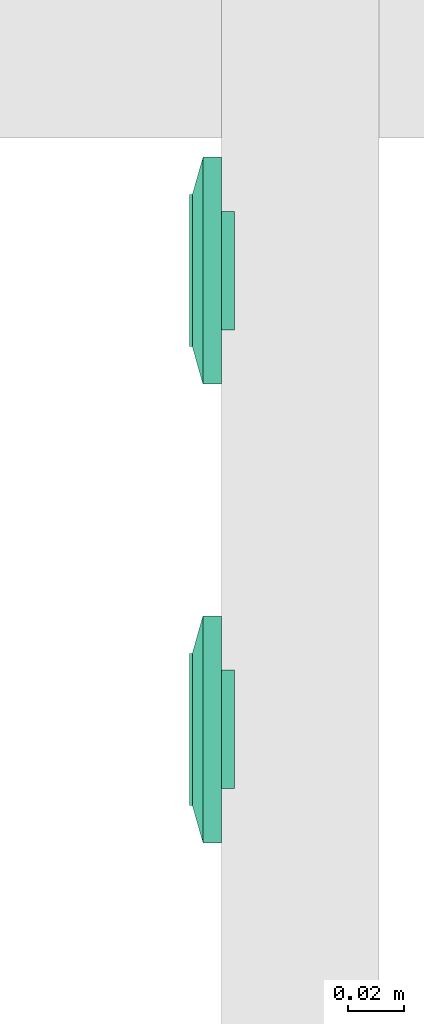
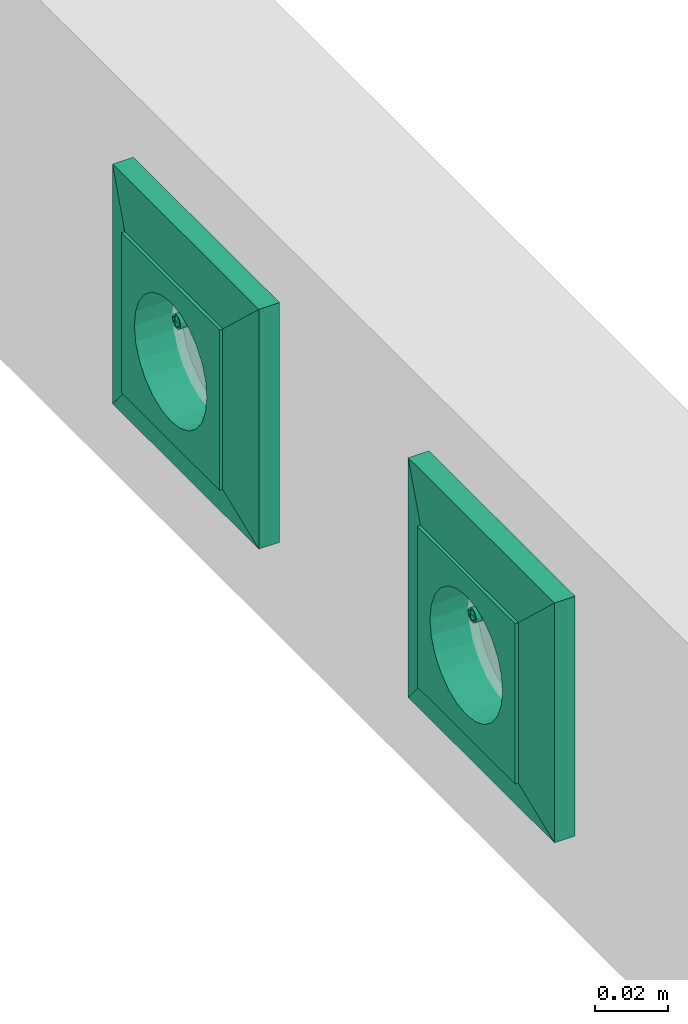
# One storey, part 75 of 166: 2 flow terminals.
"""IFC2X3 building model written with IfcOpenShell, lengths in metres."""

from ifc_helpers import new_model, entity, si_unit, converted_unit, derived_unit, direction, frame, origin, place, context, subcontext, project, spatial, face_set, surface_model, source, transform, mapped, type_object, type_shapes, element, save


model = new_model("IFC2X3")

# Units and contexts
model_context = context("Model", 3, precision=1e-05, world=origin(), true_north=direction((6.12303176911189e-17, 1.0)))
body_context = subcontext(model_context, "Body", "Model", "MODEL_VIEW")
ifc_project = project(units=[si_unit("LENGTHUNIT", "METRE"), si_unit("AREAUNIT", "SQUARE_METRE"), si_unit("VOLUMEUNIT", "CUBIC_METRE"), converted_unit("PLANEANGLEUNIT", "DEGREE", entity("IfcRatioMeasure", 0.0174532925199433), si_unit("PLANEANGLEUNIT", "RADIAN"), dimensions=[0, 0, 0, 0, 0, 0, 0]), si_unit("MASSUNIT", "GRAM", prefix="KILO"), derived_unit("MASSDENSITYUNIT", [(si_unit("MASSUNIT", "GRAM", prefix="KILO"), 1), (si_unit("LENGTHUNIT", "METRE"), -3)]), si_unit("TIMEUNIT", "SECOND"), si_unit("FREQUENCYUNIT", "HERTZ"), si_unit("THERMODYNAMICTEMPERATUREUNIT", "DEGREE_CELSIUS"), derived_unit("THERMALTRANSMITTANCEUNIT", [(si_unit("MASSUNIT", "GRAM", prefix="KILO"), 1), (si_unit("THERMODYNAMICTEMPERATUREUNIT", "KELVIN"), -1), (si_unit("TIMEUNIT", "SECOND"), -3)]), derived_unit("VOLUMETRICFLOWRATEUNIT", [(si_unit("LENGTHUNIT", "METRE"), 3), (si_unit("TIMEUNIT", "SECOND"), -1)]), si_unit("ELECTRICCURRENTUNIT", "AMPERE"), si_unit("ELECTRICVOLTAGEUNIT", "VOLT"), si_unit("POWERUNIT", "WATT"), si_unit("FORCEUNIT", "NEWTON"), si_unit("ILLUMINANCEUNIT", "LUX"), si_unit("LUMINOUSFLUXUNIT", "LUMEN"), si_unit("LUMINOUSINTENSITYUNIT", "CANDELA"), derived_unit("USERDEFINED", [(si_unit("MASSUNIT", "GRAM", prefix="KILO"), -1), (si_unit("LENGTHUNIT", "METRE"), -2), (si_unit("TIMEUNIT", "SECOND"), 3), (si_unit("LUMINOUSFLUXUNIT", "LUMEN"), 1)]), derived_unit("LINEARVELOCITYUNIT", [(si_unit("LENGTHUNIT", "METRE"), 1), (si_unit("TIMEUNIT", "SECOND"), -1)]), si_unit("PRESSUREUNIT", "PASCAL"), derived_unit("USERDEFINED", [(si_unit("LENGTHUNIT", "METRE"), -2), (si_unit("MASSUNIT", "GRAM", prefix="KILO"), 1), (si_unit("TIMEUNIT", "SECOND"), -2)])], contexts=[model_context])

# Site, building, storey
site_placement = place(None, origin())
site = spatial("IfcSite", under=ifc_project, at=site_placement, Name="Default", CompositionType="ELEMENT")
building_placement = place(site_placement, origin())
building = spatial("IfcBuilding", under=site, at=building_placement, CompositionType="ELEMENT")
storey_placement = place(building_placement, frame((0.0, 0.0, 4.27)))
storey = spatial("IfcBuildingStorey", under=building, at=storey_placement, Name="01", CompositionType="ELEMENT", Elevation=4.27)

# Flow terminals
light_fixture_type = type_object("IfcLightFixtureType", Name="IP20 ONDULEE", PredefinedType="NOTDEFINED")
shared_shape = source(origin(), body_context, "Body", "SurfaceModel", [
    surface_model("IfcFaceBasedSurfaceModel", [(-0.00225000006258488, 0.0127499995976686, 0.00949633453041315), (0.0, 0.0104999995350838, 0.00949633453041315), (0.0, 0.0115376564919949, 0.0101656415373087), (0.0, 0.0139623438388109, 0.0101656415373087), (0.0, 0.0144589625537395, 0.00984531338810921), (0.0, 0.0121178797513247, 0.0102778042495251), (0.0, 0.0133821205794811, 0.0102778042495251), (0.0, 0.0127499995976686, 0.010399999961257), (0.0, 0.0149999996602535, 0.00949633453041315), (0.00225000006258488, 0.0127499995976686, 0.00949633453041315), (0.0, 0.0110410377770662, 0.00984531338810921), (0.0, 0.0127499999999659, 0.00949633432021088), (0.00225000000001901, 0.0127499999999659, 0.00949633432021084), (0.00217333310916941, 0.0121676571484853, 0.00949633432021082), (0.00194855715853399, 0.0116249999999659, 0.00949633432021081), (0.00159099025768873, 0.0111590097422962, 0.00949633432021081), (0.001125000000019, 0.010801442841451, 0.00949633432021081), (0.00058234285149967, 0.0105766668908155, 0.00949633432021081), (0.0, 0.0104999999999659, 0.00949633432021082), (-0.000582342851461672, 0.0105766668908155, 0.00949633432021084), (-0.001124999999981, 0.010801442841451, 0.00949633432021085), (-0.00159099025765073, 0.0111590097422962, 0.00949633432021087), (-0.00194855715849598, 0.011624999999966, 0.00949633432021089), (-0.0021733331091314, 0.0121676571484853, 0.00949633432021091), (-0.00224999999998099, 0.012749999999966, 0.00949633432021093), (-0.00217333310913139, 0.0133323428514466, 0.00949633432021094), (-0.00194855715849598, 0.013874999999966, 0.00949633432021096), (-0.00159099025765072, 0.0143409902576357, 0.00949633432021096), (-0.00112499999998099, 0.0146985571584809, 0.00949633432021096), (-0.00058234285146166, 0.0149233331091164, 0.00949633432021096), (0.0, 0.0149999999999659, 0.00949633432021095), (0.000582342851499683, 0.0149233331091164, 0.00949633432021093), (0.00112500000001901, 0.0146985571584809, 0.00949633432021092), (0.00159099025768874, 0.0143409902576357, 0.00949633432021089), (0.001948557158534, 0.0138749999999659, 0.00949633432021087), (0.00217333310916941, 0.0133323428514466, 0.00949633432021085), (0.00225000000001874, 0.0127499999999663, -0.00360000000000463), (0.00217333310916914, 0.0121676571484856, -0.00360000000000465), (0.00194855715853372, 0.0116249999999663, -0.00360000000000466), (0.00159099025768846, 0.0111590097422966, -0.00360000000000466), (0.00112500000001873, 0.0108014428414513, -0.00360000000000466), (0.000582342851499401, 0.0105766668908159, -0.00360000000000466), (0.0, 0.0104999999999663, -0.00360000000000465), (-0.000582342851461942, 0.0105766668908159, -0.00360000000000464), (-0.00112499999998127, 0.0108014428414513, -0.00360000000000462), (-0.001590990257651, 0.0111590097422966, -0.0036000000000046), (-0.00194855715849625, 0.0116249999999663, -0.00360000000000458), (-0.00217333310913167, 0.0121676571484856, -0.00360000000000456), (-0.00224999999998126, 0.0127499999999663, -0.00360000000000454), (-0.00217333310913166, 0.013332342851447, -0.00360000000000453), (-0.00194855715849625, 0.0138749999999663, -0.00360000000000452), (-0.00159099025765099, 0.014340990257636, -0.00360000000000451), (-0.00112499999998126, 0.0146985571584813, -0.00360000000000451), (-0.000582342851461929, 0.0149233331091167, -0.00360000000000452), (0.0, 0.0149999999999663, -0.00360000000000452), (0.000582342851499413, 0.0149233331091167, -0.00360000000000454), (0.00112500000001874, 0.0146985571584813, -0.00360000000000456), (0.00159099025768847, 0.014340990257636, -0.00360000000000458), (0.00194855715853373, 0.0138749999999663, -0.0036000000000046), (0.00217333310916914, 0.013332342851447, -0.00360000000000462), (0.0270000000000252, 0.026999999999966, 0.0113999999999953), (-0.0269999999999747, 0.026999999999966, 0.0113999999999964), (-0.0269999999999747, -0.0270000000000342, 0.0113999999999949), (0.0270000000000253, -0.0270000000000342, 0.0113999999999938), (-0.0199999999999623, 0.0, 0.0113999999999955), (-0.0193185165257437, -0.00517638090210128, 0.0113999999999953), (-0.0173205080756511, -0.0100000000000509, 0.0113999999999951), (-0.0141421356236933, -0.0141421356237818, 0.011399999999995), (-0.00999999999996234, -0.0173205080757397, 0.0113999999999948), (-0.00517638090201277, -0.0193185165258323, 0.0113999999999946), (0.0, -0.0200000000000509, 0.0113999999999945), (0.00517638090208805, -0.0193185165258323, 0.0113999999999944), (0.0100000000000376, -0.0173205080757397, 0.0113999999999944), (0.0141421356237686, -0.0141421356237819, 0.0113999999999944), (0.0173205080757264, -0.010000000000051, 0.0113999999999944), (0.0193185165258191, -0.00517638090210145, 0.0113999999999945), (0.0200000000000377, 0.0, 0.0113999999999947), (0.0193185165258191, 0.00517638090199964, 0.0113999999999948), (0.0173205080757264, 0.0099999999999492, 0.011399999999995), (0.0141421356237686, 0.0141421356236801, 0.0113999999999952), (0.0100000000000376, 0.0173205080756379, 0.0113999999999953), (0.00517638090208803, 0.0193185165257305, 0.0113999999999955), (0.0, 0.0199999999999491, 0.0113999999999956), (-0.00517638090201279, 0.0193185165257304, 0.0113999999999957), (-0.00999999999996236, 0.0173205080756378, 0.0113999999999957), (-0.0141421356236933, 0.01414213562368, 0.0113999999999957), (-0.0173205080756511, 0.00999999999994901, 0.0113999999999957), (-0.0193185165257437, 0.00517638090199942, 0.0113999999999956), (0.0270000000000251, 0.0269999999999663, 0.00199999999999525), (0.0270000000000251, -0.0270000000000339, 0.00199999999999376), (-0.0269999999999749, -0.0270000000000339, 0.00199999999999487), (-0.0269999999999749, 0.0269999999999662, 0.00199999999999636), (0.0210000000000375, 0.0, 0.00199999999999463), (0.0202844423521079, -0.00543519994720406, 0.00199999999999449), (0.0181865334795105, -0.0105000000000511, 0.0019999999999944), (0.0148492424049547, -0.0148492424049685, 0.00199999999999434), (0.0105000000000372, -0.0181865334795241, 0.00199999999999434), (0.0054351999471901, -0.0202844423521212, 0.00199999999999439), (0.0, -0.0210000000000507, 0.00199999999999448), (-0.00543519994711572, -0.020284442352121, 0.00199999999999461), (-0.0104999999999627, -0.0181865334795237, 0.00199999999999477), (-0.0148492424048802, -0.014849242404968, 0.00199999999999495), (-0.0181865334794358, -0.0105000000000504, 0.00199999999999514), (-0.020284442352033, -0.00543519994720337, 0.00199999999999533), (-0.0209999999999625, 0.0, 0.00199999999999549), (-0.0202844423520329, 0.0054351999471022, 0.00199999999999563), (-0.0181865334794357, 0.0104999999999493, 0.00199999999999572), (-0.01484924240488, 0.0148492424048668, 0.00199999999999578), (-0.0104999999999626, 0.0181865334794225, 0.00199999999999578), (-0.00543519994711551, 0.0202844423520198, 0.00199999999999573), (0.0, 0.0209999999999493, 0.00199999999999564), (0.00543519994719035, 0.0202844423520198, 0.00199999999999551), (0.0105000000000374, 0.0181865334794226, 0.00199999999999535), (0.0148492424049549, 0.0148492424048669, 0.00199999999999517), (0.0181865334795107, 0.0104999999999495, 0.00199999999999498), (0.0202844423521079, 0.00543519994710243, 0.00199999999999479), (0.0200000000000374, 0.0, -0.00360000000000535), (0.0193185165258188, -0.00517638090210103, -0.00360000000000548), (0.0173205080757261, -0.0100000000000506, -0.00360000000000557), (0.0141421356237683, -0.0141421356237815, -0.00360000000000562), (0.0100000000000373, -0.0173205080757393, -0.00360000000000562), (0.00517638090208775, -0.0193185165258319, -0.00360000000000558), (0.0, -0.0200000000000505, -0.00360000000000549), (-0.00517638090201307, -0.0193185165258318, -0.00360000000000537), (-0.00999999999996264, -0.0173205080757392, -0.00360000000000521), (-0.0141421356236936, -0.0141421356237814, -0.00360000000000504), (-0.0173205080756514, -0.0100000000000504, -0.00360000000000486), (-0.019318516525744, -0.00517638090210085, -0.00360000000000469), (-0.0199999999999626, 0.0, -0.00360000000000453), (-0.0193185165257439, 0.00517638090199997, -0.0036000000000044), (-0.0173205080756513, 0.00999999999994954, -0.00360000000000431), (-0.0141421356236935, 0.0141421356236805, -0.00360000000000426), (-0.00999999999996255, 0.0173205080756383, -0.00360000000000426), (-0.00517638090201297, 0.0193185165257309, -0.0036000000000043), (0.0, 0.0199999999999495, -0.00360000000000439), (0.00517638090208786, 0.0193185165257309, -0.00360000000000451), (0.0100000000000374, 0.0173205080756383, -0.00360000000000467), (0.0141421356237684, 0.0141421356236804, -0.00360000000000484), (0.0173205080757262, 0.0099999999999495, -0.00360000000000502), (0.0193185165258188, 0.00517638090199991, -0.00360000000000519), (-0.0123499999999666, 0.0, -0.00360000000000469), (-0.0122562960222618, -0.000711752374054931, -0.00360000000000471), (-0.0119815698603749, -0.00137500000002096, -0.00360000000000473), (-0.0115445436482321, -0.00194454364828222, -0.00360000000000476), (-0.0109749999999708, -0.00238156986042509, -0.00360000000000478), (-0.0103117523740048, -0.00265629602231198, -0.0036000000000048), (-0.00959999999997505, -0.00275000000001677, -0.00360000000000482), (-0.0088882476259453, -0.00265629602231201, -0.00360000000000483), (-0.00822499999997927, -0.00238156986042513, -0.00360000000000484), (-0.00765545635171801, -0.00194454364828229, -0.00360000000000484), (-0.00721843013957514, -0.00137500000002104, -0.00360000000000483), (-0.00694370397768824, -0.000711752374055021, -0.00360000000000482), (-0.00684999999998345, 0.0, -0.0036000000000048), (-0.00694370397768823, 0.000711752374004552, -0.00360000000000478), (-0.00721843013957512, 0.00137499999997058, -0.00360000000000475), (-0.00765545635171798, 0.00194454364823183, -0.00360000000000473), (-0.00822499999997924, 0.00238156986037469, -0.0036000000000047), (-0.00888824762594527, 0.00265629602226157, -0.00360000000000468), (-0.00959999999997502, 0.00274999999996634, -0.00360000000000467), (-0.0103117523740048, 0.00265629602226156, -0.00360000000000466), (-0.0109749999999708, 0.00238156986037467, -0.00360000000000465), (-0.011544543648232, 0.00194454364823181, -0.00360000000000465), (-0.0119815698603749, 0.00137499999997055, -0.00360000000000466), (-0.0122562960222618, 0.000711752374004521, -0.00360000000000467), (0.00685000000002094, 0.0, -0.00360000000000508), (0.0069437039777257, -0.00071175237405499, -0.0036000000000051), (0.00721843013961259, -0.00137500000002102, -0.00360000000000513), (0.00765545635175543, -0.00194454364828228, -0.00360000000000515), (0.00822500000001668, -0.00238156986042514, -0.00360000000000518), (0.00888824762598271, -0.00265629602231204, -0.0036000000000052), (0.00960000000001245, -0.00275000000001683, -0.00360000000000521), (0.0103117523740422, -0.00265629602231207, -0.00360000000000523), (0.0109750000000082, -0.00238156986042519, -0.00360000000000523), (0.0115445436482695, -0.00194454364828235, -0.00360000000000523), (0.0119815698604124, -0.0013750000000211, -0.00360000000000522), (0.0122562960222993, -0.00071175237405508, -0.00360000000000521), (0.012350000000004, 0.0, -0.00360000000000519), (0.0122562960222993, 0.000711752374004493, -0.00360000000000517), (0.0119815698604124, 0.00137499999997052, -0.00360000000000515), (0.0115445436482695, 0.00194454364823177, -0.00360000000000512), (0.0109750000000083, 0.00238156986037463, -0.0036000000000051), (0.0103117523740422, 0.00265629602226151, -0.00360000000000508), (0.00960000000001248, 0.00274999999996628, -0.00360000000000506), (0.00888824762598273, 0.0026562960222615, -0.00360000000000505), (0.0082250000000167, 0.00238156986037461, -0.00360000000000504), (0.00765545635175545, 0.00194454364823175, -0.00360000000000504), (0.0072184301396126, 0.00137499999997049, -0.00360000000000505), (0.00694370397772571, 0.000711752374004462, -0.00360000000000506), (0.0210000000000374, 0.0, -0.00460000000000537), (0.0202844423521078, -0.00543519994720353, -0.00460000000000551), (0.0181865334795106, -0.0105000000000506, -0.0046000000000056), (0.0148492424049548, -0.0148492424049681, -0.00460000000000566), (0.0105000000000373, -0.0181865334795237, -0.00460000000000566), (0.00543519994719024, -0.0202844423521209, -0.00460000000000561), (0.0, -0.0210000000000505, -0.00460000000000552), (-0.00543519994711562, -0.0202844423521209, -0.00460000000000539), (-0.0104999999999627, -0.0181865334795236, -0.00460000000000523), (-0.0148492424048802, -0.0148492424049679, -0.00460000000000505), (-0.0181865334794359, -0.0105000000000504, -0.00460000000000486), (-0.0202844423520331, -0.00543519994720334, -0.00460000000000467), (-0.0209999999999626, 0.0, -0.00460000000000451), (-0.020284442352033, 0.00543519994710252, -0.00460000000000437), (-0.0181865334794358, 0.0104999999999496, -0.00460000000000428), (-0.0148492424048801, 0.0148492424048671, -0.00460000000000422), (-0.0104999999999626, 0.0181865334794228, -0.00460000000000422), (-0.00543519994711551, 0.02028444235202, -0.00460000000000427), (0.0, 0.0209999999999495, -0.00460000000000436), (0.00543519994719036, 0.02028444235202, -0.00460000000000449), (0.0105000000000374, 0.0181865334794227, -0.00460000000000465), (0.0148492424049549, 0.014849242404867, -0.00460000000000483), (0.0181865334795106, 0.0104999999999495, -0.00460000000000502), (0.0202844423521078, 0.00543519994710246, -0.00460000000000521), (-0.00684999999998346, 0.0, -0.0046000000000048), (-0.00694370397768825, 0.000711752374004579, -0.00460000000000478), (-0.00721843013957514, 0.00137499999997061, -0.00460000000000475), (-0.007655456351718, 0.00194454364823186, -0.00460000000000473), (-0.00822499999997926, 0.00238156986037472, -0.0046000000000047), (-0.00888824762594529, 0.0026562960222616, -0.00460000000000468), (-0.00959999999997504, 0.00274999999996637, -0.00460000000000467), (-0.0103117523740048, 0.00265629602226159, -0.00460000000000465), (-0.0109749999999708, 0.0023815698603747, -0.00460000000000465), (-0.0115445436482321, 0.00194454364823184, -0.00460000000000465), (-0.0119815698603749, 0.00137499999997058, -0.00460000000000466), (-0.0122562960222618, 0.000711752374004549, -0.00460000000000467), (-0.0123499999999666, 0.0, -0.00460000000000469), (-0.0122562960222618, -0.000711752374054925, -0.00460000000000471), (-0.0119815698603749, -0.00137500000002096, -0.00460000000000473), (-0.0115445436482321, -0.00194454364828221, -0.00460000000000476), (-0.0109749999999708, -0.00238156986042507, -0.00460000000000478), (-0.0103117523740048, -0.00265629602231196, -0.0046000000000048), (-0.00959999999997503, -0.00275000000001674, -0.00460000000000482), (-0.00888824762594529, -0.00265629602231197, -0.00460000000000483), (-0.00822499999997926, -0.00238156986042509, -0.00460000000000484), (-0.007655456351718, -0.00194454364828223, -0.00460000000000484), (-0.00721843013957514, -0.00137500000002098, -0.00460000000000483), (-0.00694370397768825, -0.000711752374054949, -0.00460000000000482), (0.012350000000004, 0.0, -0.00460000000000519), (0.0122562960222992, 0.000711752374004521, -0.00460000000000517), (0.0119815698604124, 0.00137499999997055, -0.00460000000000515), (0.0115445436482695, 0.0019445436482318, -0.00460000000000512), (0.0109750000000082, 0.00238156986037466, -0.0046000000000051), (0.0103117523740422, 0.00265629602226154, -0.00460000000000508), (0.00960000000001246, 0.00274999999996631, -0.00460000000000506), (0.00888824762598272, 0.00265629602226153, -0.00460000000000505), (0.00822500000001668, 0.00238156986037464, -0.00460000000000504), (0.00765545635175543, 0.00194454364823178, -0.00460000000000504), (0.00721843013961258, 0.00137499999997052, -0.00460000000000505), (0.00694370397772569, 0.00071175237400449, -0.00460000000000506), (0.00685000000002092, 0.0, -0.00460000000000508), (0.00694370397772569, -0.000711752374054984, -0.0046000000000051), (0.00721843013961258, -0.00137500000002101, -0.00460000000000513), (0.00765545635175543, -0.00194454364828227, -0.00460000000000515), (0.00822500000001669, -0.00238156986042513, -0.00460000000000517), (0.00888824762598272, -0.00265629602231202, -0.0046000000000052), (0.00960000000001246, -0.0027500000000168, -0.00460000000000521), (0.0103117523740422, -0.00265629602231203, -0.00460000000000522), (0.0109750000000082, -0.00238156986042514, -0.00460000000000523), (0.0115445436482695, -0.00194454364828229, -0.00460000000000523), (0.0119815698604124, -0.00137500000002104, -0.00460000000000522), (0.0122562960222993, -0.000711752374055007, -0.00460000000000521), (0.040350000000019, 0.0403499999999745, 0.00659999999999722), (0.040350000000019, -0.0403500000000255, 0.00659999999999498), (-0.0403499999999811, -0.0403500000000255, 0.00659999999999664), (-0.0403499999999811, 0.0403499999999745, 0.00659999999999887), (0.027000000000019, 0.0269999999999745, 0.00659999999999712), (-0.0269999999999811, 0.0269999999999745, 0.00659999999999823), (-0.026999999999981, -0.0270000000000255, 0.00659999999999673), (0.027000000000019, -0.0270000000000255, 0.00659999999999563), (0.027000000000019, 0.0269999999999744, 0.0103999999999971), (-0.026999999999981, 0.0269999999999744, 0.0103999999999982), (-0.026999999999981, -0.0270000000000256, 0.0103999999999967), (0.027000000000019, -0.0270000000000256, 0.0103999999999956), (0.040350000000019, 0.0403499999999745, 0.00659999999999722), (0.040350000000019, -0.0403500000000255, 0.00659999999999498), (-0.0403499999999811, -0.0403500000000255, 0.00659999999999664), (-0.0403499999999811, 0.0403499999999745, 0.00659999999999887), (-0.0269999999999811, 0.0269999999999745, 0.00659999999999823), (-0.0269999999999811, -0.0270000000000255, 0.00659999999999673), (0.0270000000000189, -0.0270000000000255, 0.00659999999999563), (0.0270000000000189, 0.0269999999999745, 0.00659999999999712), (0.0403500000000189, 0.0403499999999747, 0.0), (0.0403500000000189, -0.0403500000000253, 0.0), (-0.0403499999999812, -0.0403500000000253, 0.0), (-0.0403499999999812, 0.0403499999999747, 0.0), (0.0270000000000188, 0.0269999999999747, 0.0), (-0.0269999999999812, 0.0269999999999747, 0.0), (-0.0269999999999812, -0.0270000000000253, 0.0), (0.0270000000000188, -0.0270000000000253, 0.0)], [face_set([[[0, 1, 2]], [[3, 4, 2, 5]], [[6, 3, 5, 7]], [[2, 4, 0]], [[4, 8, 0]], [[3, 9, 8]], [[1, 9, 10]], [[2, 3, 6, 7]], [[3, 10, 9]], [[2, 10, 3]], [[11, 1, 0, 8]], [[11, 8, 9, 1]]]), face_set([[[12, 13, 14, 15, 16, 17, 18, 19, 20, 21, 22, 23, 24, 25, 26, 27, 28, 29, 30, 31, 32, 33, 34, 35]], [[36, 37, 38, 39, 40, 41, 42, 43, 44, 45, 46, 47, 48, 49, 50, 51, 52, 53, 54, 55, 56, 57, 58, 59]], [[48, 47, 23, 24]], [[47, 46, 22, 23]], [[45, 44, 20, 21]], [[46, 45, 21, 22]], [[44, 43, 19, 20]], [[18, 19, 43, 42]], [[42, 41, 17, 18]], [[41, 40, 16, 17]], [[39, 38, 14, 15]], [[40, 39, 15, 16]], [[38, 37, 13, 14]], [[12, 13, 37, 36]], [[36, 59, 35, 12]], [[59, 58, 34, 35]], [[57, 56, 32, 33]], [[58, 57, 33, 34]], [[56, 55, 31, 32]], [[30, 31, 55, 54]], [[54, 53, 29, 30]], [[53, 52, 28, 29]], [[51, 50, 26, 27]], [[52, 51, 27, 28]], [[50, 49, 25, 26]], [[24, 25, 49, 48]]]), face_set([[[60, 61, 62, 63], [64, 65, 66, 67, 68, 69, 70, 71, 72, 73, 74, 75, 76, 77, 78, 79, 80, 81, 82, 83, 84, 85, 86, 87]], [[88, 89, 90, 91], [92, 93, 94, 95, 96, 97, 98, 99, 100, 101, 102, 103, 104, 105, 106, 107, 108, 109, 110, 111, 112, 113, 114, 115]], [[61, 60, 88, 91]], [[62, 61, 91, 90]], [[63, 62, 90, 89]], [[60, 63, 89, 88]], [[116, 117, 118, 119, 120, 121, 122, 123, 124, 125, 126, 127, 128, 129, 130, 131, 132, 133, 134, 135, 136, 137, 138, 139], [140, 141, 142, 143, 144, 145, 146, 147, 148, 149, 150, 151, 152, 153, 154, 155, 156, 157, 158, 159, 160, 161, 162, 163], [164, 165, 166, 167, 168, 169, 170, 171, 172, 173, 174, 175, 176, 177, 178, 179, 180, 181, 182, 183, 184, 185, 186, 187]], [[64, 128, 127, 65]], [[65, 127, 126, 66]], [[67, 125, 124, 68]], [[66, 126, 125, 67]], [[68, 124, 123, 69]], [[122, 70, 69, 123]], [[70, 122, 121, 71]], [[71, 121, 120, 72]], [[73, 119, 118, 74]], [[72, 120, 119, 73]], [[74, 118, 117, 75]], [[116, 76, 75, 117]], [[76, 116, 139, 77]], [[77, 139, 138, 78]], [[79, 137, 136, 80]], [[78, 138, 137, 79]], [[80, 136, 135, 81]], [[134, 82, 81, 135]], [[82, 134, 133, 83]], [[83, 133, 132, 84]], [[84, 132, 131, 85]], [[85, 131, 130, 86]], [[130, 129, 87, 86]], [[64, 87, 129, 128]], [[188, 189, 190, 191, 192, 193, 194, 195, 196, 197, 198, 199, 200, 201, 202, 203, 204, 205, 206, 207, 208, 209, 210, 211], [212, 213, 214, 215, 216, 217, 218, 219, 220, 221, 222, 223, 224, 225, 226, 227, 228, 229, 230, 231, 232, 233, 234, 235], [236, 237, 238, 239, 240, 241, 242, 243, 244, 245, 246, 247, 248, 249, 250, 251, 252, 253, 254, 255, 256, 257, 258, 259]], [[200, 199, 103, 104]], [[199, 198, 102, 103]], [[197, 196, 100, 101]], [[198, 197, 101, 102]], [[196, 195, 99, 100]], [[98, 99, 195, 194]], [[194, 193, 97, 98]], [[193, 192, 96, 97]], [[191, 190, 94, 95]], [[192, 191, 95, 96]], [[190, 189, 93, 94]], [[92, 93, 189, 188]], [[188, 211, 115, 92]], [[211, 210, 114, 115]], [[209, 208, 112, 113]], [[210, 209, 113, 114]], [[208, 207, 111, 112]], [[110, 111, 207, 206]], [[206, 205, 109, 110]], [[205, 204, 108, 109]], [[203, 202, 106, 107]], [[204, 203, 107, 108]], [[202, 201, 105, 106]], [[104, 105, 201, 200]], [[141, 225, 226, 142]], [[140, 224, 225, 141]], [[144, 228, 229, 145]], [[143, 227, 228, 144]], [[142, 226, 227, 143]], [[230, 146, 145, 229]], [[149, 233, 232, 148]], [[148, 232, 231, 147]], [[152, 212, 235, 151]], [[151, 235, 234, 150]], [[150, 234, 233, 149]], [[146, 230, 231, 147]], [[154, 214, 213, 153]], [[153, 213, 212, 152]], [[157, 217, 216, 156]], [[156, 216, 215, 155]], [[155, 215, 214, 154]], [[218, 158, 157, 217]], [[160, 220, 221, 161]], [[159, 219, 220, 160]], [[163, 223, 224, 140]], [[162, 222, 223, 163]], [[161, 221, 222, 162]], [[158, 218, 219, 159]], [[166, 250, 249, 165]], [[165, 249, 248, 164]], [[169, 253, 252, 168]], [[168, 252, 251, 167]], [[167, 251, 250, 166]], [[254, 170, 169, 253]], [[172, 256, 257, 173]], [[171, 255, 256, 172]], [[175, 259, 236, 176]], [[174, 258, 259, 175]], [[173, 257, 258, 174]], [[170, 254, 255, 171]], [[177, 237, 238, 178]], [[176, 236, 237, 177]], [[180, 240, 241, 181]], [[179, 239, 240, 180]], [[178, 238, 239, 179]], [[242, 182, 181, 241]], [[185, 245, 244, 184]], [[184, 244, 243, 183]], [[164, 248, 247, 187]], [[187, 247, 246, 186]], [[186, 246, 245, 185]], [[182, 242, 243, 183]]]), face_set([[[260, 261, 262, 263], [264, 265, 266, 267]], [[260, 268, 269, 263]], [[263, 269, 270, 262]], [[262, 270, 271, 261]], [[261, 271, 268, 260]], [[264, 265, 269, 268]], [[265, 266, 270, 269]], [[266, 267, 271, 270]], [[268, 271, 267, 264]]]), face_set([[[272, 273, 274, 275], [276, 277, 278, 279]], [[280, 281, 282, 283], [284, 285, 286, 287]], [[275, 272, 280, 283]], [[274, 275, 283, 282]], [[273, 274, 282, 281]], [[272, 273, 281, 280]], [[284, 285, 276, 279]], [[285, 286, 277, 276]], [[286, 287, 278, 277]], [[279, 278, 287, 284]]])]),
])
type_shapes(light_fixture_type, [shared_shape])
for number, where, z_axis, x_axis in (
    (1, (40.833743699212, -189.593532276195, 4.70800000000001), (-1.0, 0.0, 0.0), (0.0, -1.0, 0.0)),
    (2, (40.833743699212, -189.756532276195, 4.70800000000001), (-1.0, 0.0, 0.0), (0.0, -1.0, 0.0)),
):
    element("IfcFlowTerminal", number, at=place(building_placement, frame(where, z_axis=z_axis, x_axis=x_axis)), inside=storey, type_object=light_fixture_type, Name="INT Prise de courant:IP20 ONDULEE", ObjectType="INT Prise de courant:IP20 ONDULEE", context=body_context, shape_type="MappedRepresentation", body=[
        mapped(shared_shape, transform((0.0, 0.0, 0.0), scale=1.0)),
    ])

save(model, "model.ifc")
